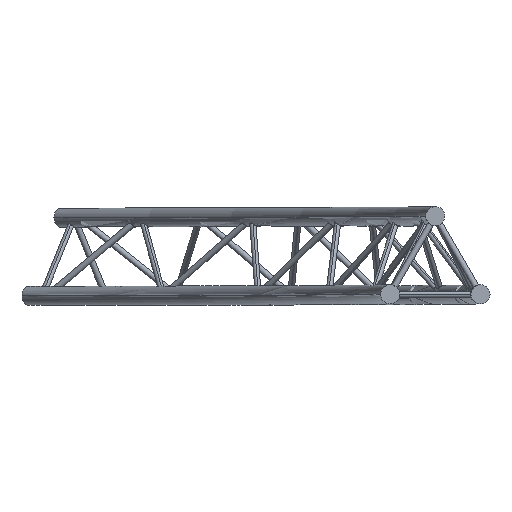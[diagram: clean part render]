
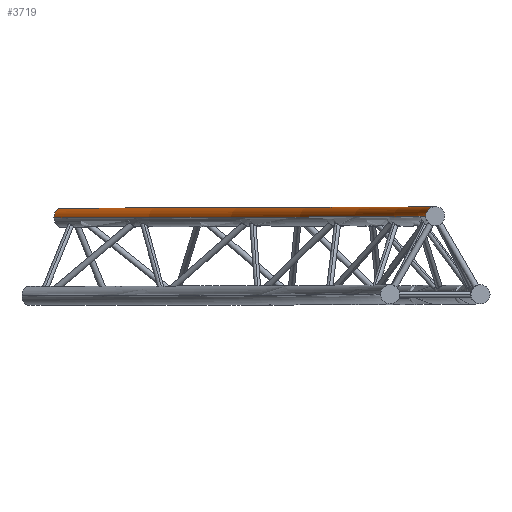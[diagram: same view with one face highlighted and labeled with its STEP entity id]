
A CAD part, top view. The second image highlights one B-rep face of the part: STEP entity #3719.
In plain terms, the highlighted toroidal (fillet/blend) face has major radius 3356.5 mm and minor radius 25 mm.
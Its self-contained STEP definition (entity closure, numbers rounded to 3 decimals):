
#129 = VERTEX_POINT ( 'NONE', #5457 ) ;
#132 = VERTEX_POINT ( 'NONE', #5498 ) ;
#134 = EDGE_CURVE ( 'NONE', #257, #132, #5497, .T. ) ;
#257 = VERTEX_POINT ( 'NONE', #6812 ) ;
#258 = VERTEX_POINT ( 'NONE', #6811 ) ;
#260 = EDGE_CURVE ( 'NONE', #258, #129, #6810, .T. ) ;
#1516 = DIRECTION ( 'NONE',  ( 1., 0., 0. ) ) ;
#1517 = DIRECTION ( 'NONE',  ( 0., 0., 1. ) ) ;
#1518 = CARTESIAN_POINT ( 'NONE',  ( 3356.5, 136.832, 0. ) ) ;
#1519 = AXIS2_PLACEMENT_3D ( 'NONE', #1518, #1517, #1516 ) ;
#1523 = CIRCLE ( 'NONE', #1519, 25. ) ;
#1951 = DIRECTION ( 'NONE',  ( 0.707, 0., -0.707 ) ) ;
#1952 = DIRECTION ( 'NONE',  ( 0.707, 0., 0.707 ) ) ;
#1953 = CARTESIAN_POINT ( 'NONE',  ( 2373.404, 136.832, -2373.404 ) ) ;
#1954 = AXIS2_PLACEMENT_3D ( 'NONE', #1953, #1952, #1951 ) ;
#1955 = CIRCLE ( 'NONE', #1954, 25. ) ;
#1956 = DIRECTION ( 'NONE',  ( 0., 0., -1. ) ) ;
#1957 = DIRECTION ( 'NONE',  ( 0., -1., 0. ) ) ;
#2082 = CARTESIAN_POINT ( 'NONE',  ( 0., 136.832, 0. ) ) ;
#2083 = AXIS2_PLACEMENT_3D ( 'NONE', #2082, #1957, #1956 ) ;
#2085 = FACE_OUTER_BOUND ( 'NONE', #3720, .T. ) ;
#2166 = TOROIDAL_SURFACE ( 'NONE', #2083, 3356.5, 25. ) ;
#3621 = ORIENTED_EDGE ( 'NONE', *, *, #134, .T. ) ;
#3622 = ORIENTED_EDGE ( 'NONE', *, *, #3623, .F. ) ;
#3623 = EDGE_CURVE ( 'NONE', #129, #132, #1523, .T. ) ;
#3719 = ADVANCED_FACE ( 'NONE', ( #2085 ), #2166, .T. ) ;
#3720 = EDGE_LOOP ( 'NONE', ( #3721, #3722, #3621, #3622 ) ) ;
#3721 = ORIENTED_EDGE ( 'NONE', *, *, #260, .F. ) ;
#3722 = ORIENTED_EDGE ( 'NONE', *, *, #3723, .T. ) ;
#3723 = EDGE_CURVE ( 'NONE', #258, #257, #1955, .T. ) ;
#5457 = CARTESIAN_POINT ( 'NONE',  ( 3381.5, 136.832, 0. ) ) ;
#5493 = DIRECTION ( 'NONE',  ( 0., 0., -1. ) ) ;
#5494 = DIRECTION ( 'NONE',  ( 0., -1., 0. ) ) ;
#5495 = CARTESIAN_POINT ( 'NONE',  ( 0., 136.832, 0. ) ) ;
#5496 = AXIS2_PLACEMENT_3D ( 'NONE', #5495, #5494, #5493 ) ;
#5497 = CIRCLE ( 'NONE', #5496, 3331.5 ) ;
#5498 = CARTESIAN_POINT ( 'NONE',  ( 3331.5, 136.832, 0. ) ) ;
#6806 = DIRECTION ( 'NONE',  ( 0., 0., -1. ) ) ;
#6807 = DIRECTION ( 'NONE',  ( 0., -1., 0. ) ) ;
#6808 = CARTESIAN_POINT ( 'NONE',  ( 0., 136.832, 0. ) ) ;
#6809 = AXIS2_PLACEMENT_3D ( 'NONE', #6808, #6807, #6806 ) ;
#6810 = CIRCLE ( 'NONE', #6809, 3381.5 ) ;
#6811 = CARTESIAN_POINT ( 'NONE',  ( 2391.082, 136.832, -2391.082 ) ) ;
#6812 = CARTESIAN_POINT ( 'NONE',  ( 2355.726, 136.832, -2355.726 ) ) ;
